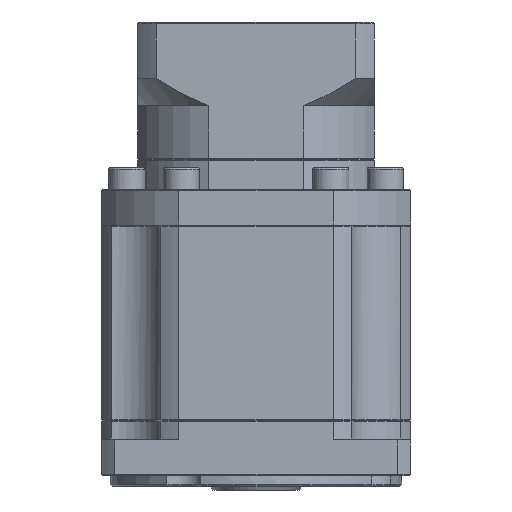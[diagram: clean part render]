
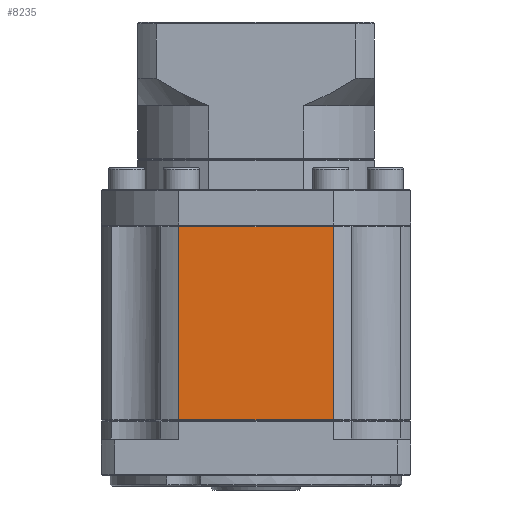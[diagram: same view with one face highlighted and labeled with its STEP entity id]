
A CAD part, front view. The second image highlights one B-rep face of the part: STEP entity #8235.
In plain terms, the highlighted planar face has unit normal (0, -1, 0).
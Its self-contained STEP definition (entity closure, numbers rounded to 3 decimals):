
#734 = FACE_OUTER_BOUND ( 'NONE', #16673, .T. ) ;
#4012 = VERTEX_POINT ( 'NONE', #115120 ) ;
#6597 = CARTESIAN_POINT ( 'NONE',  ( -46.204, 10.272, -37.401 ) ) ;
#7403 = VERTEX_POINT ( 'NONE', #84450 ) ;
#8235 = ADVANCED_FACE ( 'NONE', ( #734 ), #106352, .F. ) ;
#14150 = AXIS2_PLACEMENT_3D ( 'NONE', #6597, #75857, #45742 ) ;
#16673 = EDGE_LOOP ( 'NONE', ( #116199, #26215, #94261, #84037 ) ) ;
#17933 = VECTOR ( 'NONE', #37316, 1000. ) ;
#18742 = EDGE_CURVE ( 'NONE', #7403, #106541, #116018, .T. ) ;
#20592 = DIRECTION ( 'NONE',  ( 0., 0., 1. ) ) ;
#26215 = ORIENTED_EDGE ( 'NONE', *, *, #18742, .F. ) ;
#27350 = LINE ( 'NONE', #52899, #30460 ) ;
#29639 = CARTESIAN_POINT ( 'NONE',  ( -88.63, 10.272, -37.651 ) ) ;
#30460 = VECTOR ( 'NONE', #123970, 1000. ) ;
#33683 = VECTOR ( 'NONE', #20592, 1000. ) ;
#37316 = DIRECTION ( 'NONE',  ( 0., 0., -1. ) ) ;
#41425 = CARTESIAN_POINT ( 'NONE',  ( -88.63, 10.272, -37.401 ) ) ;
#41553 = LINE ( 'NONE', #52228, #100892 ) ;
#45742 = DIRECTION ( 'NONE',  ( 0., 0., 1. ) ) ;
#52228 = CARTESIAN_POINT ( 'NONE',  ( -67.417, 10.272, -37.651 ) ) ;
#52899 = CARTESIAN_POINT ( 'NONE',  ( -46.204, 10.272, -90.651 ) ) ;
#66906 = CARTESIAN_POINT ( 'NONE',  ( -46.204, 10.272, -37.401 ) ) ;
#75857 = DIRECTION ( 'NONE',  ( 0., 1., 0. ) ) ;
#84037 = ORIENTED_EDGE ( 'NONE', *, *, #107339, .F. ) ;
#84450 = CARTESIAN_POINT ( 'NONE',  ( -46.204, 10.272, -37.651 ) ) ;
#92476 = VERTEX_POINT ( 'NONE', #29639 ) ;
#94261 = ORIENTED_EDGE ( 'NONE', *, *, #98706, .F. ) ;
#98706 = EDGE_CURVE ( 'NONE', #92476, #7403, #41553, .T. ) ;
#100778 = LINE ( 'NONE', #41425, #33683 ) ;
#100892 = VECTOR ( 'NONE', #122015, 1000. ) ;
#106352 = PLANE ( 'NONE',  #14150 ) ;
#106541 = VERTEX_POINT ( 'NONE', #112292 ) ;
#107339 = EDGE_CURVE ( 'NONE', #4012, #92476, #100778, .T. ) ;
#111882 = EDGE_CURVE ( 'NONE', #106541, #4012, #27350, .T. ) ;
#112292 = CARTESIAN_POINT ( 'NONE',  ( -46.204, 10.272, -90.651 ) ) ;
#115120 = CARTESIAN_POINT ( 'NONE',  ( -88.63, 10.272, -90.651 ) ) ;
#116018 = LINE ( 'NONE', #66906, #17933 ) ;
#116199 = ORIENTED_EDGE ( 'NONE', *, *, #111882, .F. ) ;
#122015 = DIRECTION ( 'NONE',  ( 1., 0., 0. ) ) ;
#123970 = DIRECTION ( 'NONE',  ( -1., 0., 0. ) ) ;
